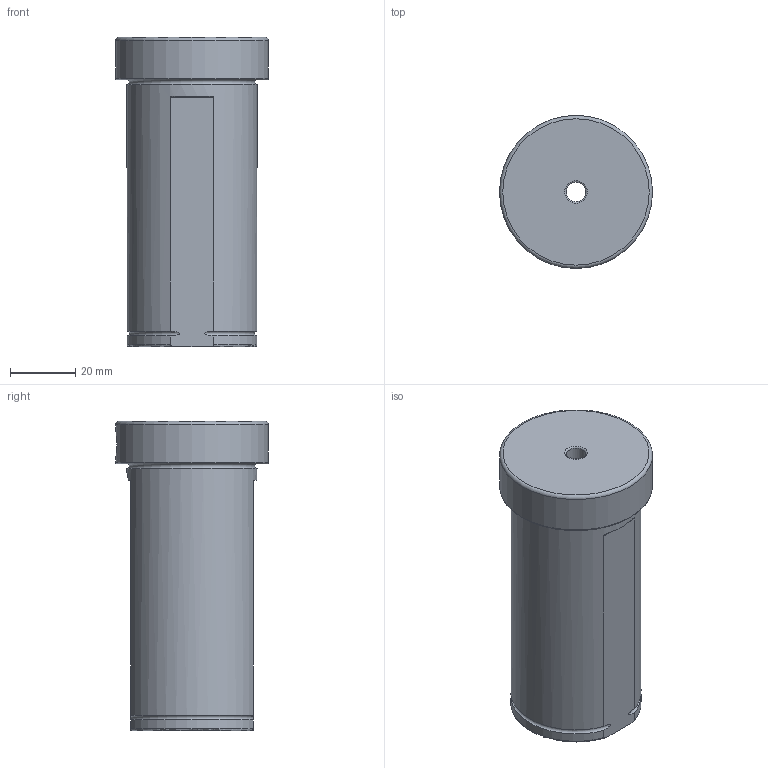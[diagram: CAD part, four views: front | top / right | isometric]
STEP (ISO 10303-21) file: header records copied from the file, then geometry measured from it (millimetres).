
FILE_DESCRIPTION(/* description */ (''),/* implementation_level */ '2;1');
FILE_NAME(/* name */ '',/* time_stamp */ '2025-04-15T11:52:36+03:00',/* author */ ('User'),/* organization */ (''),/* preprocessor_version */ 'ST-DEVELOPER v19.2',/* originating_system */ 'Autodesk Inventor 2024',/* authorisation */ '');
FILE_SCHEMA (('AUTOMOTIVE_DESIGN { 1 0 10303 214 3 1 1 }'));
Length unit declared in the file: millimetre
Products named in the file (1): Втулка переходная 
D40-d6
Bounding box: 47 x 47 x 95 mm (x, y, z)
Volume: 88978.6 mm3; surface area: 22085.1 mm2
Topology: 1 solids, 1 shells, 56 faces, 139 edges, 92 vertices
Faces by surface type: plane 28, cylinder 14, torus 10, bspline 4
Full cylindrical faces by diameter (mm): 6 x3, 8 x2, 25 x1, 26 x1, 40 x1, 47 x1
Entity records: 2269 total; most frequent: CARTESIAN_POINT 861, ORIENTED_EDGE 278, DIRECTION 264, EDGE_CURVE 139, AXIS2_PLACEMENT_3D 100, VERTEX_POINT 92, EDGE_LOOP 65, LINE 64
